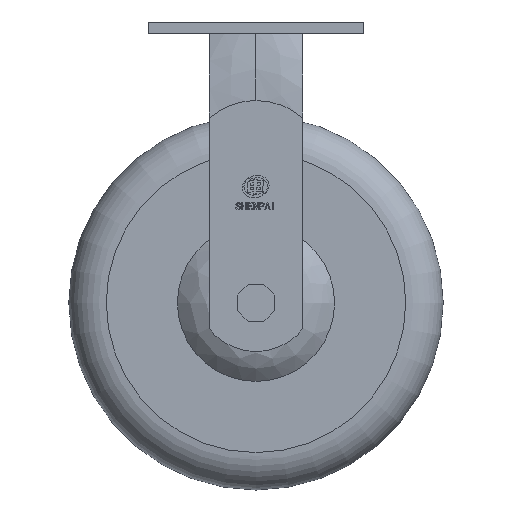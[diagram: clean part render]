
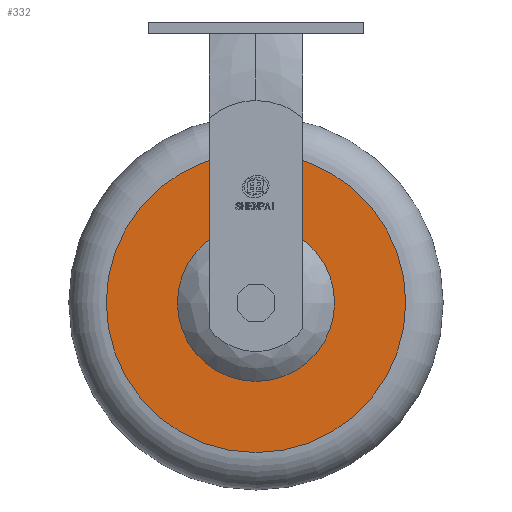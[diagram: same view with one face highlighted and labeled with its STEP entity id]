
A CAD part, front view. The second image highlights one B-rep face of the part: STEP entity #332.
In plain terms, the highlighted planar face has unit normal (0, -1, 0).
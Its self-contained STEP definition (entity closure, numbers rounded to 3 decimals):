
#332=ADVANCED_FACE('',(#1162,#1163),#596,.T.);
#596=PLANE('',#4683);
#1087=CIRCLE('',#4681,80.);
#1088=CIRCLE('',#4682,42.);
#1162=FACE_BOUND('',#1271,.T.);
#1163=FACE_BOUND('',#1272,.T.);
#1271=EDGE_LOOP('',(#1743));
#1272=EDGE_LOOP('',(#1744));
#1743=ORIENTED_EDGE('',*,*,#3525,.T.);
#1744=ORIENTED_EDGE('',*,*,#3526,.T.);
#3069=VERTEX_POINT('',#6621);
#3070=VERTEX_POINT('',#6623);
#3525=EDGE_CURVE('',#3069,#3069,#1087,.T.);
#3526=EDGE_CURVE('',#3070,#3070,#1088,.T.);
#4681=AXIS2_PLACEMENT_3D('',#6620,#5076,#5077);
#4682=AXIS2_PLACEMENT_3D('',#6622,#5078,#5079);
#4683=AXIS2_PLACEMENT_3D('',#6624,#5080,#5081);
#5076=DIRECTION('',(0.,-1.,0.));
#5077=DIRECTION('',(0.,0.,-1.));
#5078=DIRECTION('',(0.,1.,0.));
#5079=DIRECTION('',(0.,0.,-1.));
#5080=DIRECTION('',(0.,-1.,0.));
#5081=DIRECTION('',(0.,0.,1.));
#6620=CARTESIAN_POINT('',(0.,-31.5,-150.));
#6621=CARTESIAN_POINT('',(0.,-31.5,-230.));
#6622=CARTESIAN_POINT('',(0.,-31.5,-150.));
#6623=CARTESIAN_POINT('',(0.,-31.5,-192.));
#6624=CARTESIAN_POINT('',(0.,-31.5,-89.876));
